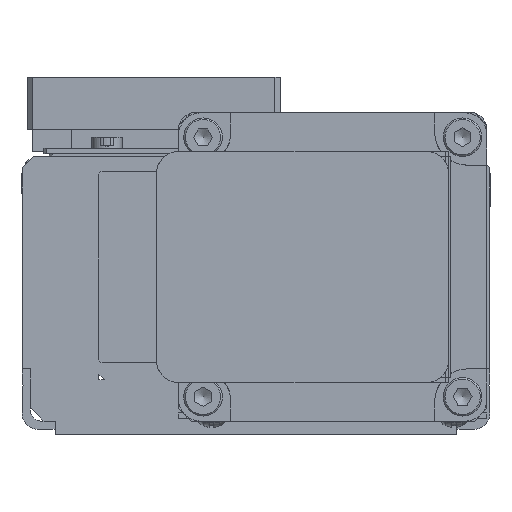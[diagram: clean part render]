
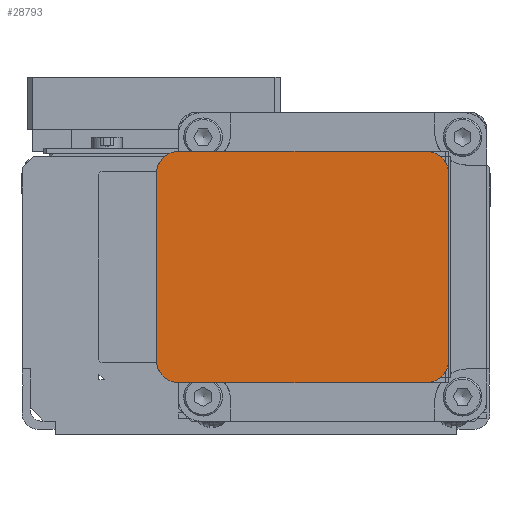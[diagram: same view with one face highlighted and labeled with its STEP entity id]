
A CAD part, left-side view. The second image highlights one B-rep face of the part: STEP entity #28793.
In plain terms, the highlighted planar face has unit normal (-1, 0, 0).
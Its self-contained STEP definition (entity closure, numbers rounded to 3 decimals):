
#28536=CARTESIAN_POINT('',(-161.5,-30.95,51.5));
#28537=VERTEX_POINT('',#28536);
#28544=CARTESIAN_POINT('',(-161.5,-34.95,47.5));
#28545=VERTEX_POINT('',#28544);
#28546=CARTESIAN_POINT('',(-161.5,-30.95,47.5));
#28547=DIRECTION('',(-1.0,0.0,0.0));
#28548=DIRECTION('',(0.0,-1.0,0.0));
#28549=AXIS2_PLACEMENT_3D('',#28546,#28547,#28548);
#28550=CIRCLE('',#28549,4.);
#28551=EDGE_CURVE('',#28545,#28537,#28550,.T.);
#28624=CARTESIAN_POINT('',(-161.5,-34.95,13.5));
#28625=VERTEX_POINT('',#28624);
#28632=CARTESIAN_POINT('',(-161.5,-30.95,9.5));
#28633=VERTEX_POINT('',#28632);
#28634=CARTESIAN_POINT('',(-161.5,-30.95,13.5));
#28635=DIRECTION('',(-1.0,0.0,0.0));
#28636=DIRECTION('',(0.0,0.0,-1.0));
#28637=AXIS2_PLACEMENT_3D('',#28634,#28635,#28636);
#28638=CIRCLE('',#28637,4.);
#28639=EDGE_CURVE('',#28633,#28625,#28638,.T.);
#28669=CARTESIAN_POINT('',(-161.5,18.05,47.5));
#28670=VERTEX_POINT('',#28669);
#28677=CARTESIAN_POINT('',(-161.5,14.05,51.5));
#28678=VERTEX_POINT('',#28677);
#28679=CARTESIAN_POINT('',(-161.5,14.05,47.5));
#28680=DIRECTION('',(-1.0,0.0,0.0));
#28681=DIRECTION('',(0.0,0.0,1.0));
#28682=AXIS2_PLACEMENT_3D('',#28679,#28680,#28681);
#28683=CIRCLE('',#28682,4.);
#28684=EDGE_CURVE('',#28678,#28670,#28683,.T.);
#28732=CARTESIAN_POINT('',(-161.5,14.05,9.5));
#28733=VERTEX_POINT('',#28732);
#28740=CARTESIAN_POINT('',(-161.5,18.05,13.5));
#28741=VERTEX_POINT('',#28740);
#28742=CARTESIAN_POINT('',(-161.5,14.05,13.5));
#28743=DIRECTION('',(-1.0,0.0,0.0));
#28744=DIRECTION('',(0.0,1.0,0.0));
#28745=AXIS2_PLACEMENT_3D('',#28742,#28743,#28744);
#28746=CIRCLE('',#28745,4.);
#28747=EDGE_CURVE('',#28741,#28733,#28746,.T.);
#28758=CARTESIAN_POINT('',(-161.5,18.05,30.5));
#28759=DIRECTION('',(-1.0,0.0,0.0));
#28760=DIRECTION('',(0.0,1.0,0.0));
#28761=AXIS2_PLACEMENT_3D('',#28758,#28759,#28760);
#28762=PLANE('',#28761);
#28763=ORIENTED_EDGE('',*,*,#28551,.T.);
#28764=CARTESIAN_POINT('',(-161.5,-30.95,51.5));
#28765=DIRECTION('',(0.0,1.0,0.0));
#28766=VECTOR('',#28765,45.0);
#28767=LINE('',#28764,#28766);
#28768=EDGE_CURVE('',#28537,#28678,#28767,.T.);
#28769=ORIENTED_EDGE('',*,*,#28768,.T.);
#28770=ORIENTED_EDGE('',*,*,#28684,.T.);
#28771=CARTESIAN_POINT('',(-161.5,18.05,13.5));
#28772=DIRECTION('',(0.0,0.0,1.0));
#28773=VECTOR('',#28772,34.0);
#28774=LINE('',#28771,#28773);
#28775=EDGE_CURVE('',#28741,#28670,#28774,.T.);
#28776=ORIENTED_EDGE('',*,*,#28775,.F.);
#28777=ORIENTED_EDGE('',*,*,#28747,.T.);
#28778=CARTESIAN_POINT('',(-161.5,14.05,9.5));
#28779=DIRECTION('',(0.0,-1.0,0.0));
#28780=VECTOR('',#28779,45.0);
#28781=LINE('',#28778,#28780);
#28782=EDGE_CURVE('',#28733,#28633,#28781,.T.);
#28783=ORIENTED_EDGE('',*,*,#28782,.T.);
#28784=ORIENTED_EDGE('',*,*,#28639,.T.);
#28785=CARTESIAN_POINT('',(-161.5,-34.95,47.5));
#28786=DIRECTION('',(0.0,0.0,-1.0));
#28787=VECTOR('',#28786,34.);
#28788=LINE('',#28785,#28787);
#28789=EDGE_CURVE('',#28545,#28625,#28788,.T.);
#28790=ORIENTED_EDGE('',*,*,#28789,.F.);
#28791=EDGE_LOOP('',(#28763,#28769,#28770,#28776,#28777,#28783,#28784,#28790));
#28792=FACE_OUTER_BOUND('',#28791,.T.);
#28793=ADVANCED_FACE('',(#28792),#28762,.T.);
